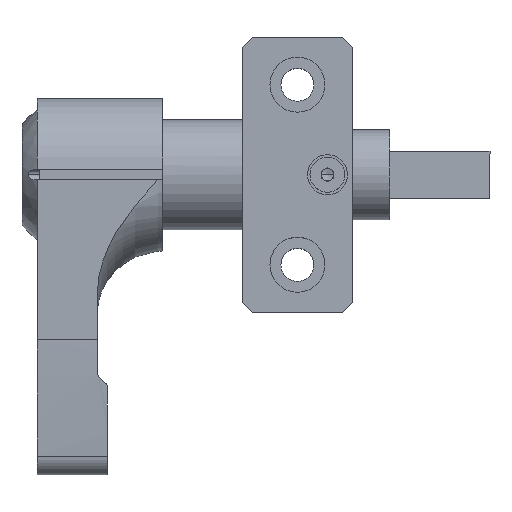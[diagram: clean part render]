
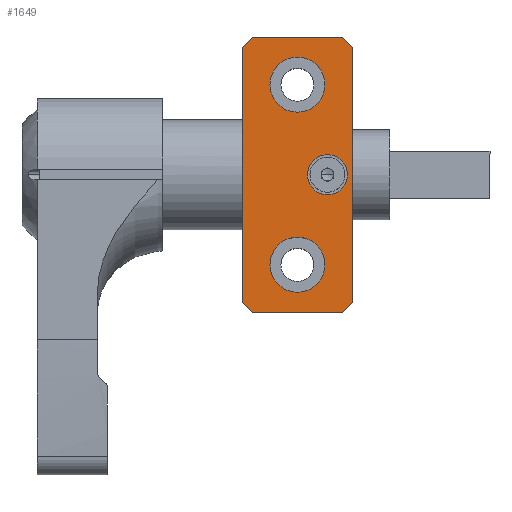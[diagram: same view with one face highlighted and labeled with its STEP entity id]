
A CAD part, top view. The second image highlights one B-rep face of the part: STEP entity #1649.
In plain terms, the highlighted planar face has unit normal (0, 0, 1) as drawn and (0, 0, -1) by its records, which use the part's own axes.
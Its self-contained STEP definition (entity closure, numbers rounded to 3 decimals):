
#58 = EDGE_CURVE ( 'NONE', #1349, #1622, #1168, .T. ) ;
#113 = EDGE_LOOP ( 'NONE', ( #1140, #2095, #1693, #1813, #2575, #2141, #126, #489 ) ) ;
#126 = ORIENTED_EDGE ( 'NONE', *, *, #2016, .F. ) ;
#151 = EDGE_CURVE ( 'NONE', #3419, #2129, #333, .T. ) ;
#162 = CARTESIAN_POINT ( 'NONE',  ( -27.5, -9., -33. ) ) ;
#178 = LINE ( 'NONE', #1004, #1968 ) ;
#196 = CARTESIAN_POINT ( 'NONE',  ( -25.5, 11., -33. ) ) ;
#200 = ORIENTED_EDGE ( 'NONE', *, *, #151, .F. ) ;
#226 = VECTOR ( 'NONE', #1765, 1000. ) ;
#232 = DIRECTION ( 'NONE',  ( 0., 1., 0. ) ) ;
#237 = DIRECTION ( 'NONE',  ( 0., 0., 1. ) ) ;
#268 = VERTEX_POINT ( 'NONE', #412 ) ;
#287 = ORIENTED_EDGE ( 'NONE', *, *, #1605, .F. ) ;
#299 = EDGE_CURVE ( 'NONE', #2129, #3419, #2061, .T. ) ;
#319 = VERTEX_POINT ( 'NONE', #1550 ) ;
#327 = DIRECTION ( 'NONE',  ( 0., 0., -1. ) ) ;
#333 = CIRCLE ( 'NONE', #3255, 5.5 ) ;
#340 = DIRECTION ( 'NONE',  ( 0., 0., -1. ) ) ;
#347 = VERTEX_POINT ( 'NONE', #162 ) ;
#399 = LINE ( 'NONE', #1713, #877 ) ;
#412 = CARTESIAN_POINT ( 'NONE',  ( 0., -2., -33. ) ) ;
#489 = ORIENTED_EDGE ( 'NONE', *, *, #58, .T. ) ;
#505 = FACE_BOUND ( 'NONE', #2390, .T. ) ;
#508 = AXIS2_PLACEMENT_3D ( 'NONE', #2090, #3178, #937 ) ;
#524 = VERTEX_POINT ( 'NONE', #1408 ) ;
#541 = ORIENTED_EDGE ( 'NONE', *, *, #299, .F. ) ;
#585 = EDGE_CURVE ( 'NONE', #3190, #3551, #858, .T. ) ;
#602 = CARTESIAN_POINT ( 'NONE',  ( -25.5, 11., -33. ) ) ;
#648 = CARTESIAN_POINT ( 'NONE',  ( 25.5, -11., -33. ) ) ;
#651 = VERTEX_POINT ( 'NONE', #1986 ) ;
#670 = EDGE_CURVE ( 'NONE', #1036, #268, #3092, .T. ) ;
#691 = AXIS2_PLACEMENT_3D ( 'NONE', #2430, #237, #3488 ) ;
#692 = EDGE_CURVE ( 'NONE', #3190, #651, #913, .T. ) ;
#712 = EDGE_CURVE ( 'NONE', #319, #524, #2461, .T. ) ;
#721 = CARTESIAN_POINT ( 'NONE',  ( -27.5, -11., -33. ) ) ;
#849 = VECTOR ( 'NONE', #1074, 1000. ) ;
#858 = LINE ( 'NONE', #1964, #849 ) ;
#863 = AXIS2_PLACEMENT_3D ( 'NONE', #1061, #1862, #2967 ) ;
#877 = VECTOR ( 'NONE', #1483, 1000. ) ;
#911 = EDGE_CURVE ( 'NONE', #2435, #347, #1815, .T. ) ;
#913 = LINE ( 'NONE', #2568, #226 ) ;
#933 = CARTESIAN_POINT ( 'NONE',  ( -18., 0., -33. ) ) ;
#934 = AXIS2_PLACEMENT_3D ( 'NONE', #3093, #2283, #2004 ) ;
#937 = DIRECTION ( 'NONE',  ( 0., 1., 0. ) ) ;
#983 = CARTESIAN_POINT ( 'NONE',  ( 18., 5.5, -33. ) ) ;
#1004 = CARTESIAN_POINT ( 'NONE',  ( 27.5, -11., -33. ) ) ;
#1036 = VERTEX_POINT ( 'NONE', #2209 ) ;
#1061 = CARTESIAN_POINT ( 'NONE',  ( -18., 0., -33. ) ) ;
#1074 = DIRECTION ( 'NONE',  ( -1., 0., 0. ) ) ;
#1140 = ORIENTED_EDGE ( 'NONE', *, *, #3043, .F. ) ;
#1168 = LINE ( 'NONE', #648, #1428 ) ;
#1173 = EDGE_CURVE ( 'NONE', #2383, #3551, #1722, .T. ) ;
#1200 = EDGE_LOOP ( 'NONE', ( #1501, #1584 ) ) ;
#1315 = VECTOR ( 'NONE', #3427, 1000. ) ;
#1349 = VERTEX_POINT ( 'NONE', #1395 ) ;
#1395 = CARTESIAN_POINT ( 'NONE',  ( 27.5, -9., -33. ) ) ;
#1408 = CARTESIAN_POINT ( 'NONE',  ( -18., -5.5, -33. ) ) ;
#1428 = VECTOR ( 'NONE', #3075, 1000. ) ;
#1467 = CARTESIAN_POINT ( 'NONE',  ( 18., 0., -33. ) ) ;
#1483 = DIRECTION ( 'NONE',  ( 1., 0., 0. ) ) ;
#1501 = ORIENTED_EDGE ( 'NONE', *, *, #670, .F. ) ;
#1550 = CARTESIAN_POINT ( 'NONE',  ( -18., 5.5, -33. ) ) ;
#1584 = ORIENTED_EDGE ( 'NONE', *, *, #2980, .F. ) ;
#1605 = EDGE_CURVE ( 'NONE', #524, #319, #3333, .T. ) ;
#1622 = VERTEX_POINT ( 'NONE', #2391 ) ;
#1649 = ADVANCED_FACE ( 'NONE', ( #505, #2663, #3182, #2952 ), #3452, .F. ) ;
#1691 = DIRECTION ( 'NONE',  ( 0.707, 0.707, 0. ) ) ;
#1693 = ORIENTED_EDGE ( 'NONE', *, *, #1707, .F. ) ;
#1707 = EDGE_CURVE ( 'NONE', #2383, #347, #2094, .T. ) ;
#1713 = CARTESIAN_POINT ( 'NONE',  ( 27.5, -11., -33. ) ) ;
#1720 = VECTOR ( 'NONE', #1691, 1000. ) ;
#1722 = LINE ( 'NONE', #602, #1720 ) ;
#1765 = DIRECTION ( 'NONE',  ( 0.707, -0.707, 0. ) ) ;
#1781 = CARTESIAN_POINT ( 'NONE',  ( 0., -6., -33. ) ) ;
#1813 = ORIENTED_EDGE ( 'NONE', *, *, #1173, .T. ) ;
#1815 = LINE ( 'NONE', #2961, #1315 ) ;
#1862 = DIRECTION ( 'NONE',  ( 0., 0., -1. ) ) ;
#1963 = VECTOR ( 'NONE', #2376, 1000. ) ;
#1964 = CARTESIAN_POINT ( 'NONE',  ( 27.5, 11., -33. ) ) ;
#1968 = VECTOR ( 'NONE', #232, 1000. ) ;
#1986 = CARTESIAN_POINT ( 'NONE',  ( 27.5, 9., -33. ) ) ;
#2004 = DIRECTION ( 'NONE',  ( 0., -1., 0. ) ) ;
#2010 = AXIS2_PLACEMENT_3D ( 'NONE', #933, #340, #2245 ) ;
#2016 = EDGE_CURVE ( 'NONE', #1349, #651, #178, .T. ) ;
#2061 = CIRCLE ( 'NONE', #508, 5.5 ) ;
#2063 = CARTESIAN_POINT ( 'NONE',  ( 18., -5.5, -33. ) ) ;
#2090 = CARTESIAN_POINT ( 'NONE',  ( 18., 0., -33. ) ) ;
#2091 = CARTESIAN_POINT ( 'NONE',  ( 25.5, 11., -33. ) ) ;
#2094 = LINE ( 'NONE', #721, #1963 ) ;
#2095 = ORIENTED_EDGE ( 'NONE', *, *, #911, .T. ) ;
#2129 = VERTEX_POINT ( 'NONE', #983 ) ;
#2141 = ORIENTED_EDGE ( 'NONE', *, *, #692, .T. ) ;
#2209 = CARTESIAN_POINT ( 'NONE',  ( 0., -10., -33. ) ) ;
#2245 = DIRECTION ( 'NONE',  ( 0., 1., 0. ) ) ;
#2283 = DIRECTION ( 'NONE',  ( 0., 0., -1. ) ) ;
#2297 = DIRECTION ( 'NONE',  ( 0., -1., 0. ) ) ;
#2376 = DIRECTION ( 'NONE',  ( 0., -1., 0. ) ) ;
#2383 = VERTEX_POINT ( 'NONE', #2491 ) ;
#2390 = EDGE_LOOP ( 'NONE', ( #200, #541 ) ) ;
#2391 = CARTESIAN_POINT ( 'NONE',  ( 25.5, -11., -33. ) ) ;
#2430 = CARTESIAN_POINT ( 'NONE',  ( 0., 0., -33. ) ) ;
#2435 = VERTEX_POINT ( 'NONE', #2525 ) ;
#2461 = CIRCLE ( 'NONE', #2010, 5.5 ) ;
#2491 = CARTESIAN_POINT ( 'NONE',  ( -27.5, 9., -33. ) ) ;
#2514 = EDGE_LOOP ( 'NONE', ( #287, #3197 ) ) ;
#2525 = CARTESIAN_POINT ( 'NONE',  ( -25.5, -11., -33. ) ) ;
#2568 = CARTESIAN_POINT ( 'NONE',  ( 27.5, 9., -33. ) ) ;
#2575 = ORIENTED_EDGE ( 'NONE', *, *, #585, .F. ) ;
#2663 = FACE_BOUND ( 'NONE', #2514, .T. ) ;
#2840 = DIRECTION ( 'NONE',  ( 0., 0., -1. ) ) ;
#2952 = FACE_OUTER_BOUND ( 'NONE', #113, .T. ) ;
#2961 = CARTESIAN_POINT ( 'NONE',  ( -27.5, -9., -33. ) ) ;
#2967 = DIRECTION ( 'NONE',  ( 0., 1., 0. ) ) ;
#2980 = EDGE_CURVE ( 'NONE', #268, #1036, #2999, .T. ) ;
#2999 = CIRCLE ( 'NONE', #934, 4. ) ;
#3043 = EDGE_CURVE ( 'NONE', #2435, #1622, #399, .T. ) ;
#3075 = DIRECTION ( 'NONE',  ( -0.707, -0.707, 0. ) ) ;
#3092 = CIRCLE ( 'NONE', #3315, 4. ) ;
#3093 = CARTESIAN_POINT ( 'NONE',  ( 0., -6., -33. ) ) ;
#3178 = DIRECTION ( 'NONE',  ( 0., 0., -1. ) ) ;
#3182 = FACE_BOUND ( 'NONE', #1200, .T. ) ;
#3190 = VERTEX_POINT ( 'NONE', #2091 ) ;
#3197 = ORIENTED_EDGE ( 'NONE', *, *, #712, .F. ) ;
#3255 = AXIS2_PLACEMENT_3D ( 'NONE', #1467, #327, #3362 ) ;
#3315 = AXIS2_PLACEMENT_3D ( 'NONE', #1781, #2840, #2297 ) ;
#3333 = CIRCLE ( 'NONE', #863, 5.5 ) ;
#3362 = DIRECTION ( 'NONE',  ( 0., 1., 0. ) ) ;
#3419 = VERTEX_POINT ( 'NONE', #2063 ) ;
#3427 = DIRECTION ( 'NONE',  ( -0.707, 0.707, 0. ) ) ;
#3452 = PLANE ( 'NONE',  #691 ) ;
#3488 = DIRECTION ( 'NONE',  ( 0., 1., 0. ) ) ;
#3551 = VERTEX_POINT ( 'NONE', #196 ) ;
